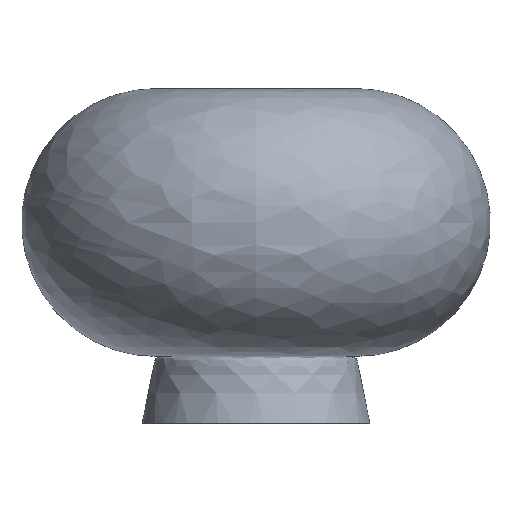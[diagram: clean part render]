
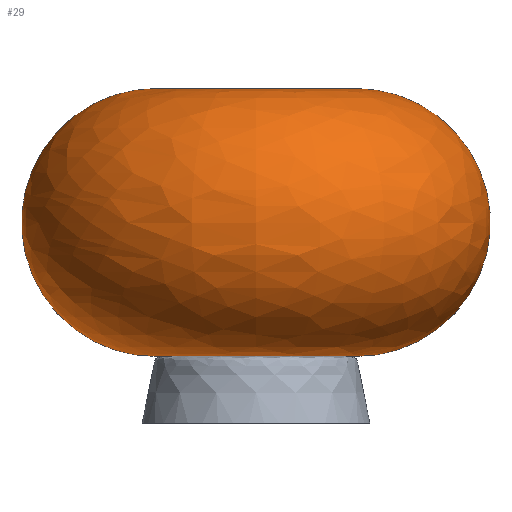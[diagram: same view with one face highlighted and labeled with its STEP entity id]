
A CAD part, front view. The second image highlights one B-rep face of the part: STEP entity #29.
In plain terms, the highlighted free-form (B-spline) face has degree [2, 2] with [7, 5] control points.
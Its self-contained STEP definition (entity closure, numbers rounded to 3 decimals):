
#29=ADVANCED_FACE('',(#43),#181,.T.);
#43=FACE_OUTER_BOUND('',#57,.T.);
#57=EDGE_LOOP('',(#98,#99,#100));
#98=ORIENTED_EDGE('',*,*,#127,.T.);
#99=ORIENTED_EDGE('',*,*,#123,.F.);
#100=ORIENTED_EDGE('',*,*,#128,.F.);
#123=EDGE_CURVE('',#166,#165,#149,.T.);
#127=EDGE_CURVE('',#168,#165,#152,.T.);
#128=EDGE_CURVE('',#168,#166,#153,.T.);
#149=(
BOUNDED_CURVE()
B_SPLINE_CURVE(2,(#577,#578,#579,#580,#581,#582,#583),.UNSPECIFIED.,.F.,
 .F.)
B_SPLINE_CURVE_WITH_KNOTS((3,2,2,3),(1661.637,1818.717,
1975.796,2050.796),.UNSPECIFIED.)
CURVE()
GEOMETRIC_REPRESENTATION_ITEM()
RATIONAL_B_SPLINE_CURVE((1.,0.707,1.,0.707,1.,1.,
1.))
REPRESENTATION_ITEM('')
);
#152=(
BOUNDED_CURVE()
B_SPLINE_CURVE(2,(#596,#597,#598,#599,#600,#601,#602),.UNSPECIFIED.,.F.,
 .F.)
B_SPLINE_CURVE_WITH_KNOTS((3,2,2,3),(1661.637,1818.717,
1975.796,2050.796),.UNSPECIFIED.)
CURVE()
GEOMETRIC_REPRESENTATION_ITEM()
RATIONAL_B_SPLINE_CURVE((1.,0.707,1.,0.707,1.,1.,
1.))
REPRESENTATION_ITEM('')
);
#153=(
BOUNDED_CURVE()
B_SPLINE_CURVE(2,(#603,#604,#605,#606,#607),.UNSPECIFIED.,.F.,.F.)
B_SPLINE_CURVE_WITH_KNOTS((3,2,3),(383.805,575.708,767.611),
 .UNSPECIFIED.)
CURVE()
GEOMETRIC_REPRESENTATION_ITEM()
RATIONAL_B_SPLINE_CURVE((1.,0.707,1.,0.707,1.))
REPRESENTATION_ITEM('')
);
#165=VERTEX_POINT('',#565);
#166=VERTEX_POINT('',#566);
#168=VERTEX_POINT('',#568);
#181=(
BOUNDED_SURFACE()
B_SPLINE_SURFACE(2,2,((#484,#485,#486,#487,#488),(#489,#490,#491,#492,#493),
(#494,#495,#496,#497,#498),(#499,#500,#501,#502,#503),(#504,#505,#506,#507,
#508),(#509,#510,#511,#512,#513),(#514,#515,#516,#517,#518)),
 .UNSPECIFIED.,.F.,.F.,.F.)
B_SPLINE_SURFACE_WITH_KNOTS((3,2,2,3),(3,2,3),(1661.637,1818.717,
1975.796,2050.796),(383.805,575.708,767.611),
 .UNSPECIFIED.)
GEOMETRIC_REPRESENTATION_ITEM()
RATIONAL_B_SPLINE_SURFACE(((1.,0.707,1.,0.707,1.),
(0.707,0.5,0.707,0.5,0.707),(1.,0.707,
1.,0.707,1.),(0.707,0.5,0.707,0.5,0.707),
(1.,0.707,1.,0.707,1.),(1.,0.707,1.,
0.707,1.),(1.,0.707,1.,0.707,1.)))
REPRESENTATION_ITEM('')
SURFACE()
);
#484=CARTESIAN_POINT('',(-12143.129,2135.238,250.));
#485=CARTESIAN_POINT('',(-12143.129,2060.238,250.));
#486=CARTESIAN_POINT('',(-12068.129,2060.238,250.));
#487=CARTESIAN_POINT('',(-11993.129,2060.238,250.));
#488=CARTESIAN_POINT('',(-11993.129,2135.238,250.));
#489=CARTESIAN_POINT('',(-12243.129,2135.238,250.));
#490=CARTESIAN_POINT('',(-12243.129,1960.238,250.));
#491=CARTESIAN_POINT('',(-12068.129,1960.238,250.));
#492=CARTESIAN_POINT('',(-11893.129,1960.238,250.));
#493=CARTESIAN_POINT('',(-11893.129,2135.238,250.));
#494=CARTESIAN_POINT('',(-12243.129,2135.238,150.));
#495=CARTESIAN_POINT('',(-12243.129,1960.238,150.));
#496=CARTESIAN_POINT('',(-12068.129,1960.238,150.));
#497=CARTESIAN_POINT('',(-11893.129,1960.238,150.));
#498=CARTESIAN_POINT('',(-11893.129,2135.238,150.));
#499=CARTESIAN_POINT('',(-12243.129,2135.238,50.));
#500=CARTESIAN_POINT('',(-12243.129,1960.238,50.));
#501=CARTESIAN_POINT('',(-12068.129,1960.238,50.));
#502=CARTESIAN_POINT('',(-11893.129,1960.238,50.));
#503=CARTESIAN_POINT('',(-11893.129,2135.238,50.));
#504=CARTESIAN_POINT('',(-12143.129,2135.238,50.));
#505=CARTESIAN_POINT('',(-12143.129,2060.238,50.));
#506=CARTESIAN_POINT('',(-12068.129,2060.238,50.));
#507=CARTESIAN_POINT('',(-11993.129,2060.238,50.));
#508=CARTESIAN_POINT('',(-11993.129,2135.238,50.));
#509=CARTESIAN_POINT('',(-12105.629,2135.238,50.));
#510=CARTESIAN_POINT('',(-12105.629,2097.738,50.));
#511=CARTESIAN_POINT('',(-12068.129,2097.738,50.));
#512=CARTESIAN_POINT('',(-12030.629,2097.738,50.));
#513=CARTESIAN_POINT('',(-12030.629,2135.238,50.));
#514=CARTESIAN_POINT('',(-12068.129,2135.238,50.));
#515=CARTESIAN_POINT('',(-12068.129,2135.238,50.));
#516=CARTESIAN_POINT('',(-12068.129,2135.238,50.));
#517=CARTESIAN_POINT('',(-12068.129,2135.238,50.));
#518=CARTESIAN_POINT('',(-12068.129,2135.238,50.));
#565=CARTESIAN_POINT('',(-12068.129,2135.238,50.));
#566=CARTESIAN_POINT('',(-11993.129,2135.238,250.));
#568=CARTESIAN_POINT('',(-12143.129,2135.238,250.));
#577=CARTESIAN_POINT('',(-11993.129,2135.238,250.));
#578=CARTESIAN_POINT('',(-11893.129,2135.238,250.));
#579=CARTESIAN_POINT('',(-11893.129,2135.238,150.));
#580=CARTESIAN_POINT('',(-11893.129,2135.238,50.));
#581=CARTESIAN_POINT('',(-11993.129,2135.238,50.));
#582=CARTESIAN_POINT('',(-12030.629,2135.238,50.));
#583=CARTESIAN_POINT('',(-12068.129,2135.238,50.));
#596=CARTESIAN_POINT('',(-12143.129,2135.238,250.));
#597=CARTESIAN_POINT('',(-12243.129,2135.238,250.));
#598=CARTESIAN_POINT('',(-12243.129,2135.238,150.));
#599=CARTESIAN_POINT('',(-12243.129,2135.238,50.));
#600=CARTESIAN_POINT('',(-12143.129,2135.238,50.));
#601=CARTESIAN_POINT('',(-12105.629,2135.238,50.));
#602=CARTESIAN_POINT('',(-12068.129,2135.238,50.));
#603=CARTESIAN_POINT('',(-12143.129,2135.238,250.));
#604=CARTESIAN_POINT('',(-12143.129,2060.238,250.));
#605=CARTESIAN_POINT('',(-12068.129,2060.238,250.));
#606=CARTESIAN_POINT('',(-11993.129,2060.238,250.));
#607=CARTESIAN_POINT('',(-11993.129,2135.238,250.));
